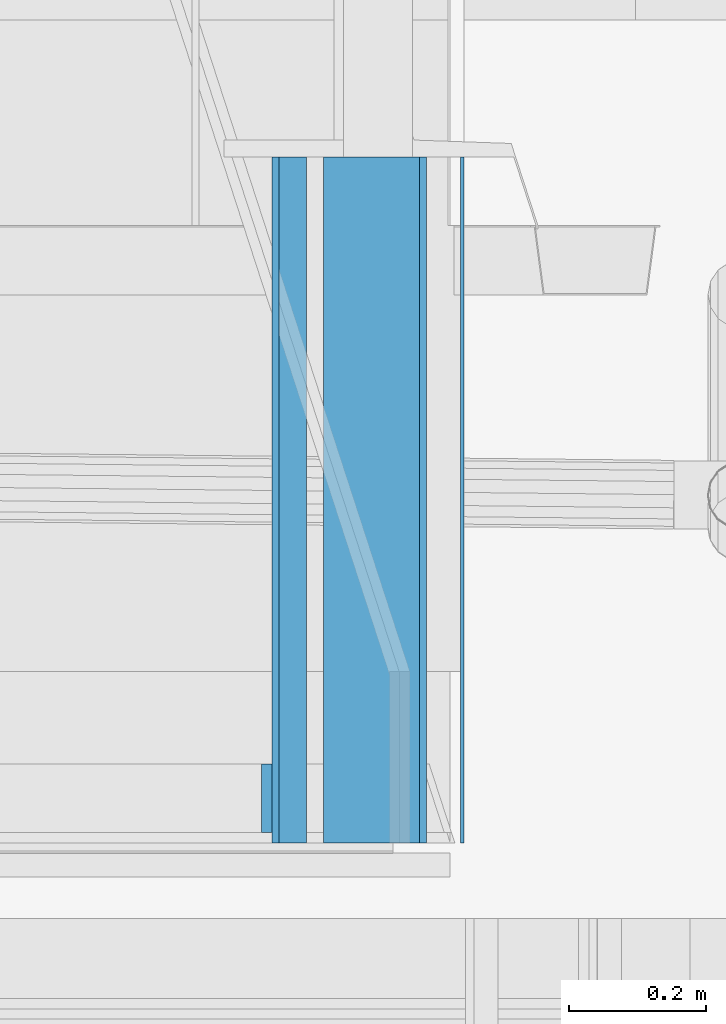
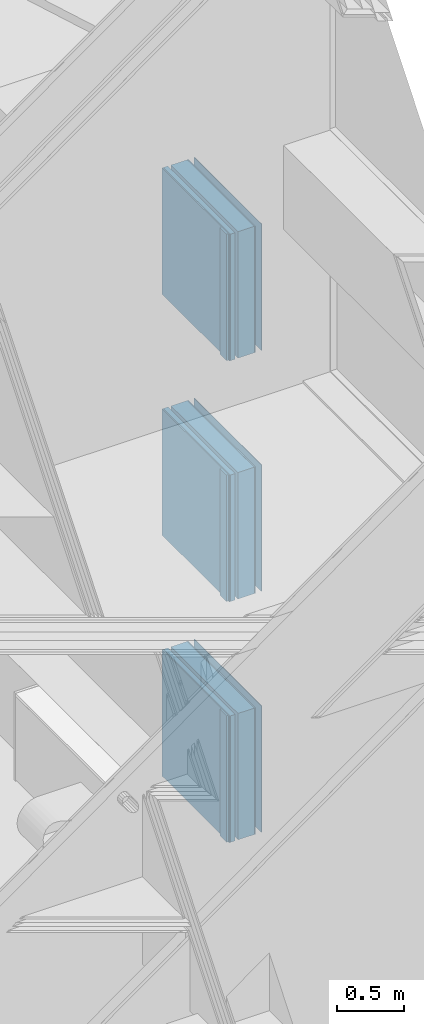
# One storey, part 166 of 583: 18 building element parts, 3 elements without a shape of their own.
"""IFC2X3 building model written with IfcOpenShell, lengths in metres."""

from ifc_helpers import new_model, entity, si_unit, converted_unit, derived_unit, money_unit, direction, frame, frame_2d, origin_with_axes, place, context, subcontext, project, spatial, rectangle, extrude, material, type_object, element, aggregate, save


model = new_model("IFC2X3")

# Units and contexts
model_context = context("Model", 3, precision=1e-05, world=origin_with_axes(), true_north=direction((0.0, 1.0)))
body_context = subcontext(model_context, "Body", "Model", "MODEL_VIEW", scale=1.0)
ifc_project = project(units=[si_unit("LENGTHUNIT", "METRE"), si_unit("AREAUNIT", "SQUARE_METRE"), si_unit("VOLUMEUNIT", "CUBIC_METRE"), si_unit("ABSORBEDDOSEUNIT", "GRAY"), si_unit("AMOUNTOFSUBSTANCEUNIT", "MOLE"), si_unit("DOSEEQUIVALENTUNIT", "SIEVERT"), si_unit("ELECTRICCAPACITANCEUNIT", "FARAD"), si_unit("ELECTRICCHARGEUNIT", "COULOMB"), si_unit("ELECTRICCONDUCTANCEUNIT", "SIEMENS"), si_unit("ELECTRICCURRENTUNIT", "AMPERE"), si_unit("ELECTRICRESISTANCEUNIT", "OHM"), si_unit("ELECTRICVOLTAGEUNIT", "VOLT"), si_unit("ENERGYUNIT", "JOULE"), si_unit("FORCEUNIT", "NEWTON"), si_unit("FREQUENCYUNIT", "HERTZ"), si_unit("ILLUMINANCEUNIT", "LUX"), si_unit("INDUCTANCEUNIT", "HENRY"), si_unit("LUMINOUSFLUXUNIT", "LUMEN"), si_unit("LUMINOUSINTENSITYUNIT", "CANDELA"), si_unit("MAGNETICFLUXDENSITYUNIT", "TESLA"), si_unit("MAGNETICFLUXUNIT", "WEBER"), si_unit("MASSUNIT", "GRAM"), converted_unit("PLANEANGLEUNIT", "degree", entity("IfcReal", 0.0174532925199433), si_unit("PLANEANGLEUNIT", "RADIAN"), dimensions=[0, 0, 0, 0, 0, 0, 0]), si_unit("POWERUNIT", "WATT"), si_unit("PRESSUREUNIT", "PASCAL"), si_unit("RADIOACTIVITYUNIT", "BECQUEREL"), si_unit("SOLIDANGLEUNIT", "STERADIAN"), si_unit("THERMODYNAMICTEMPERATUREUNIT", "KELVIN"), si_unit("TIMEUNIT", "SECOND"), derived_unit("ACCELERATIONUNIT", [(si_unit("LENGTHUNIT", "METRE"), 1), (si_unit("TIMEUNIT", "SECOND"), -2)]), derived_unit("ANGULARVELOCITYUNIT", [(converted_unit("PLANEANGLEUNIT", "degree", entity("IfcReal", 0.0174532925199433), si_unit("PLANEANGLEUNIT", "RADIAN"), dimensions=[0, 0, 0, 0, 0, 0, 0]), 1), (si_unit("TIMEUNIT", "SECOND"), -1)]), derived_unit("CURVATUREUNIT", [(converted_unit("PLANEANGLEUNIT", "degree", entity("IfcReal", 0.0174532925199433), si_unit("PLANEANGLEUNIT", "RADIAN"), dimensions=[0, 0, 0, 0, 0, 0, 0]), 1), (si_unit("LENGTHUNIT", "METRE"), -1)]), derived_unit("DYNAMICVISCOSITYUNIT", [(si_unit("PRESSUREUNIT", "PASCAL"), 1), (si_unit("TIMEUNIT", "SECOND"), 1)]), derived_unit("HEATFLUXDENSITYUNIT", [(si_unit("POWERUNIT", "WATT"), 1), (si_unit("LENGTHUNIT", "METRE"), -2)]), derived_unit("HEATINGVALUEUNIT", [(si_unit("ENERGYUNIT", "JOULE"), 1), (si_unit("MASSUNIT", "GRAM"), -1)]), derived_unit("INTEGERCOUNTRATEUNIT", [(si_unit("TIMEUNIT", "SECOND"), -1)]), derived_unit("IONCONCENTRATIONUNIT", [(si_unit("MASSUNIT", "GRAM"), 1), (si_unit("VOLUMEUNIT", "CUBIC_METRE"), -1)]), derived_unit("ISOTHERMALMOISTURECAPACITYUNIT", [(si_unit("VOLUMEUNIT", "CUBIC_METRE"), 1), (si_unit("MASSUNIT", "GRAM"), -1)]), derived_unit("KINEMATICVISCOSITYUNIT", [(si_unit("AREAUNIT", "SQUARE_METRE"), 1), (si_unit("TIMEUNIT", "SECOND"), -1)]), derived_unit("LINEARFORCEUNIT", [(si_unit("FORCEUNIT", "NEWTON"), 1), (si_unit("LENGTHUNIT", "METRE"), -1)]), derived_unit("LINEARMOMENTUNIT", [(si_unit("FORCEUNIT", "NEWTON"), 1), (si_unit("LENGTHUNIT", "METRE"), -1)]), derived_unit("LINEARSTIFFNESSUNIT", [(si_unit("FORCEUNIT", "NEWTON"), 1), (si_unit("LENGTHUNIT", "METRE"), -1)]), derived_unit("LINEARVELOCITYUNIT", [(si_unit("LENGTHUNIT", "METRE"), 1), (si_unit("TIMEUNIT", "SECOND"), -1)]), derived_unit("LUMINOUSINTENSITYDISTRIBUTIONUNIT", [(si_unit("LUMINOUSINTENSITYUNIT", "CANDELA"), 1), (si_unit("LUMINOUSFLUXUNIT", "LUMEN"), -1)]), derived_unit("MASSDENSITYUNIT", [(si_unit("MASSUNIT", "GRAM"), 1), (si_unit("VOLUMEUNIT", "CUBIC_METRE"), -1)]), derived_unit("MASSFLOWRATEUNIT", [(si_unit("MASSUNIT", "GRAM"), 1), (si_unit("TIMEUNIT", "SECOND"), -1)]), derived_unit("MASSPERLENGTHUNIT", [(si_unit("MASSUNIT", "GRAM"), 1), (si_unit("LENGTHUNIT", "METRE"), -1)]), derived_unit("MODULUSOFELASTICITYUNIT", [(si_unit("FORCEUNIT", "NEWTON"), 1), (si_unit("AREAUNIT", "SQUARE_METRE"), -1)]), derived_unit("MODULUSOFLINEARSUBGRADEREACTIONUNIT", [(si_unit("FORCEUNIT", "NEWTON"), 1), (si_unit("LENGTHUNIT", "METRE"), -2)]), derived_unit("MODULUSOFROTATIONALSUBGRADEREACTIONUNIT", [(si_unit("FORCEUNIT", "NEWTON"), 1), (si_unit("LENGTHUNIT", "METRE"), 1)]), derived_unit("MODULUSOFSUBGRADEREACTIONUNIT", [(si_unit("FORCEUNIT", "NEWTON"), 1), (si_unit("VOLUMEUNIT", "CUBIC_METRE"), -1)]), derived_unit("MOISTUREDIFFUSIVITYUNIT", [(si_unit("VOLUMEUNIT", "CUBIC_METRE"), 1), (si_unit("TIMEUNIT", "SECOND"), -1)]), derived_unit("MOLECULARWEIGHTUNIT", [(si_unit("MASSUNIT", "GRAM"), 1), (si_unit("AMOUNTOFSUBSTANCEUNIT", "MOLE"), -1)]), derived_unit("PLANARFORCEUNIT", [(si_unit("FORCEUNIT", "NEWTON"), 1), (si_unit("LENGTHUNIT", "METRE"), -2)]), derived_unit("ROTATIONALFREQUENCYUNIT", [(si_unit("TIMEUNIT", "SECOND"), -1)]), derived_unit("ROTATIONALMASSUNIT", [(si_unit("MASSUNIT", "GRAM"), 1), (si_unit("LENGTHUNIT", "METRE"), 2)]), derived_unit("ROTATIONALSTIFFNESSUNIT", [(si_unit("FORCEUNIT", "NEWTON"), 1), (si_unit("LENGTHUNIT", "METRE"), 1), (converted_unit("PLANEANGLEUNIT", "degree", entity("IfcReal", 0.0174532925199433), si_unit("PLANEANGLEUNIT", "RADIAN"), dimensions=[0, 0, 0, 0, 0, 0, 0]), -1)]), derived_unit("SECTIONAREAINTEGRALUNIT", [(si_unit("LENGTHUNIT", "METRE"), 5)]), derived_unit("SECTIONMODULUSUNIT", [(si_unit("LENGTHUNIT", "METRE"), 3)]), derived_unit("SHEARMODULUSUNIT", [(si_unit("FORCEUNIT", "NEWTON"), 1), (si_unit("AREAUNIT", "SQUARE_METRE"), -1)]), derived_unit("SOUNDPOWERUNIT", [(si_unit("ENERGYUNIT", "JOULE"), 1), (si_unit("TIMEUNIT", "SECOND"), -1)]), derived_unit("SPECIFICHEATCAPACITYUNIT", [(si_unit("FORCEUNIT", "NEWTON"), 1), (si_unit("MASSUNIT", "GRAM"), -1), (si_unit("THERMODYNAMICTEMPERATUREUNIT", "KELVIN"), -1)]), derived_unit("TEMPERATUREGRADIENTUNIT", [(si_unit("THERMODYNAMICTEMPERATUREUNIT", "KELVIN"), 1), (si_unit("LENGTHUNIT", "METRE"), -1)]), derived_unit("THERMALADMITTANCEUNIT", [(si_unit("POWERUNIT", "WATT"), 1), (si_unit("AREAUNIT", "SQUARE_METRE"), -1), (si_unit("THERMODYNAMICTEMPERATUREUNIT", "KELVIN"), -1)]), derived_unit("THERMALCONDUCTANCEUNIT", [(si_unit("POWERUNIT", "WATT"), 1), (si_unit("LENGTHUNIT", "METRE"), -1), (si_unit("THERMODYNAMICTEMPERATUREUNIT", "KELVIN"), -1)]), derived_unit("THERMALEXPANSIONCOEFFICIENTUNIT", [(si_unit("THERMODYNAMICTEMPERATUREUNIT", "KELVIN"), -1)]), derived_unit("THERMALRESISTANCEUNIT", [(si_unit("AREAUNIT", "SQUARE_METRE"), 1), (si_unit("POWERUNIT", "WATT"), -1)]), derived_unit("THERMALTRANSMITTANCEUNIT", [(si_unit("POWERUNIT", "WATT"), 1), (si_unit("AREAUNIT", "SQUARE_METRE"), -1), (si_unit("THERMODYNAMICTEMPERATUREUNIT", "KELVIN"), -1)]), derived_unit("TORQUEUNIT", [(si_unit("FORCEUNIT", "NEWTON"), 1), (si_unit("LENGTHUNIT", "METRE"), 1)]), derived_unit("VAPORPERMEABILITYUNIT", [(si_unit("MASSUNIT", "GRAM"), 1), (si_unit("TIMEUNIT", "SECOND"), -1)]), derived_unit("VOLUMETRICFLOWRATEUNIT", [(si_unit("VOLUMEUNIT", "CUBIC_METRE"), 1), (si_unit("TIMEUNIT", "SECOND"), -1)]), derived_unit("WARPINGCONSTANTUNIT", [(si_unit("LENGTHUNIT", "METRE"), 6)]), derived_unit("WARPINGMOMENTUNIT", [(si_unit("FORCEUNIT", "NEWTON"), 1), (si_unit("LENGTHUNIT", "METRE"), 2)]), money_unit("GBP")], contexts=[model_context])

# Site, building, storey
site_placement = place(None, origin_with_axes())
site = spatial("IfcSite", under=ifc_project, at=site_placement, Name="Site", CompositionType="ELEMENT")
building_placement = place(site_placement, origin_with_axes())
building = spatial("IfcBuilding", under=site, at=building_placement, Name="Building01", CompositionType="ELEMENT")
storey_placement = place(building_placement, frame((0.0, 0.0, 20.78), z_axis=(0.0, 0.0, 1.0), x_axis=(1.0, 0.0, 0.0)))
storey = spatial("IfcBuildingStorey", under=building, at=storey_placement, Name="RL", CompositionType="ELEMENT", Elevation=20.78)

# Wall, building element parts
wall_type = type_object("IfcWallType", Name="SHE_A-Walls_Type06e_ExternalWallPenthouse_280mm", PredefinedType="NOTDEFINED")
wall_1_placement = place(storey_placement, frame((14.335061, 14.98, -13.329976), z_axis=(0.0, 1.0, 0.0), x_axis=(0.0, 0.0, 1.0)))
wall_1 = element("IfcWall", 1, at=wall_1_placement, inside=storey, type_object=wall_type, Name="6E", ObjectType="SHE_A-Walls_Type06e_ExternalWallPenthouse_280mm")
ifc_material_1 = material(Name="A_BSUK_Insulation")
placement_1 = place(wall_1_placement, origin_with_axes())
building_element_part_1 = element("IfcBuildingElementPart", 2, at=placement_1, material=ifc_material_1, Name="1", context=body_context, shape_type="SweptSolid", body=[
    extrude(rectangle(XDim=1.149951, YDim=0.14, at=frame_2d((0.574976, -0.07), x_axis=(-1.0, 0.0))), origin_with_axes(), (0.0, 0.0, 1.0), 1.0),
])
building_element_part_2 = element("IfcBuildingElementPart", 3, at=placement_1, material=ifc_material_1, Name="2", context=body_context, shape_type="SweptSolid", body=[
    extrude(rectangle(XDim=1.149951, YDim=0.04, at=frame_2d((0.574976, -0.185), x_axis=(-1.0, 0.0))), origin_with_axes(), (0.0, 0.0, 1.0), 1.0),
])
ifc_material_2 = material(Name="A_BSUK_Walls_Timber")
building_element_part_3 = element("IfcBuildingElementPart", 4, at=placement_1, material=ifc_material_2, Name="3", context=body_context, shape_type="SweptSolid", body=[
    extrude(rectangle(XDim=1.149951, YDim=0.015, at=frame_2d((0.574976, -0.2225), x_axis=(-1.0, 0.0))), frame((0.0, 0.0, 0.015), z_axis=(0.0, 0.0, 1.0), x_axis=(1.0, 0.0, 0.0)), (0.0, 0.0, 1.0), 0.1),
])
ifc_material_3 = material(Name="A_BSUK_WallInternal_Finishes_Plasterboard")
building_element_part_4 = element("IfcBuildingElementPart", 5, at=placement_1, material=ifc_material_3, Name="4", context=body_context, shape_type="SweptSolid", body=[
    extrude(rectangle(XDim=1.149951, YDim=0.01, at=frame_2d((0.574976, -0.21), x_axis=(-1.0, 0.0))), origin_with_axes(), (0.0, 0.0, 1.0), 1.0),
])
building_element_part_5 = element("IfcBuildingElementPart", 6, at=placement_1, material=ifc_material_2, Name="5", context=body_context, shape_type="SweptSolid", body=[
    extrude(rectangle(XDim=1.149951, YDim=0.01, at=frame_2d((0.574976, 0.005), x_axis=(-1.0, 0.0))), origin_with_axes(), (0.0, 0.0, 1.0), 1.0),
])
ifc_material_4 = material(Name="A_BSUK_WallInternal_Finishes_Metal")
building_element_part_6 = element("IfcBuildingElementPart", 7, at=placement_1, material=ifc_material_4, Name="6", context=body_context, shape_type="SweptSolid", body=[
    extrude(rectangle(XDim=1.149951, YDim=0.005, at=frame_2d((0.574976, 0.0625), x_axis=(-1.0, 0.0))), origin_with_axes(), (0.0, 0.0, 1.0), 1.0),
])
aggregate(wall_1, [building_element_part_1, building_element_part_2, building_element_part_3, building_element_part_4, building_element_part_5, building_element_part_6])

wall_2_placement = place(storey_placement, frame((14.335061, 14.98, -15.519976), z_axis=(0.0, 1.0, 0.0), x_axis=(0.0, 0.0, 1.0)))
wall_2 = element("IfcWall", 8, at=wall_2_placement, inside=storey, type_object=wall_type, Name="6E", ObjectType="SHE_A-Walls_Type06e_ExternalWallPenthouse_280mm")
placement_2 = place(wall_2_placement, origin_with_axes())
building_element_part_7 = element("IfcBuildingElementPart", 9, at=placement_2, material=ifc_material_1, Name="1", context=body_context, shape_type="SweptSolid", body=[
    extrude(rectangle(XDim=1.149951, YDim=0.14, at=frame_2d((0.574976, -0.07), x_axis=(-1.0, 0.0))), origin_with_axes(), (0.0, 0.0, 1.0), 1.0),
])
building_element_part_8 = element("IfcBuildingElementPart", 10, at=placement_2, material=ifc_material_1, Name="2", context=body_context, shape_type="SweptSolid", body=[
    extrude(rectangle(XDim=1.149951, YDim=0.04, at=frame_2d((0.574976, -0.185), x_axis=(-1.0, 0.0))), origin_with_axes(), (0.0, 0.0, 1.0), 1.0),
])
building_element_part_9 = element("IfcBuildingElementPart", 11, at=placement_2, material=ifc_material_2, Name="3", context=body_context, shape_type="SweptSolid", body=[
    extrude(rectangle(XDim=1.149951, YDim=0.015, at=frame_2d((0.574976, -0.2225), x_axis=(-1.0, 0.0))), frame((0.0, 0.0, 0.015), z_axis=(0.0, 0.0, 1.0), x_axis=(1.0, 0.0, 0.0)), (0.0, 0.0, 1.0), 0.1),
])
building_element_part_10 = element("IfcBuildingElementPart", 12, at=placement_2, material=ifc_material_3, Name="4", context=body_context, shape_type="SweptSolid", body=[
    extrude(rectangle(XDim=1.149951, YDim=0.01, at=frame_2d((0.574976, -0.21), x_axis=(-1.0, 0.0))), origin_with_axes(), (0.0, 0.0, 1.0), 1.0),
])
building_element_part_11 = element("IfcBuildingElementPart", 13, at=placement_2, material=ifc_material_2, Name="5", context=body_context, shape_type="SweptSolid", body=[
    extrude(rectangle(XDim=1.149951, YDim=0.01, at=frame_2d((0.574976, 0.005), x_axis=(-1.0, 0.0))), origin_with_axes(), (0.0, 0.0, 1.0), 1.0),
])
building_element_part_12 = element("IfcBuildingElementPart", 14, at=placement_2, material=ifc_material_4, Name="6", context=body_context, shape_type="SweptSolid", body=[
    extrude(rectangle(XDim=1.149951, YDim=0.005, at=frame_2d((0.574976, 0.0625), x_axis=(-1.0, 0.0))), origin_with_axes(), (0.0, 0.0, 1.0), 1.0),
])
aggregate(wall_2, [building_element_part_7, building_element_part_8, building_element_part_9, building_element_part_10, building_element_part_11, building_element_part_12])

wall_3_placement = place(storey_placement, frame((14.335061, 14.98, -17.709976), z_axis=(0.0, 1.0, 0.0), x_axis=(0.0, 0.0, 1.0)))
wall_3 = element("IfcWall", 15, at=wall_3_placement, inside=storey, type_object=wall_type, Name="6E", ObjectType="SHE_A-Walls_Type06e_ExternalWallPenthouse_280mm")
placement_3 = place(wall_3_placement, origin_with_axes())
building_element_part_13 = element("IfcBuildingElementPart", 16, at=placement_3, material=ifc_material_1, Name="1", context=body_context, shape_type="SweptSolid", body=[
    extrude(rectangle(XDim=1.149951, YDim=0.14, at=frame_2d((0.574976, -0.07), x_axis=(-1.0, 0.0))), origin_with_axes(), (0.0, 0.0, 1.0), 1.0),
])
building_element_part_14 = element("IfcBuildingElementPart", 17, at=placement_3, material=ifc_material_1, Name="2", context=body_context, shape_type="SweptSolid", body=[
    extrude(rectangle(XDim=1.149951, YDim=0.04, at=frame_2d((0.574976, -0.185), x_axis=(-1.0, 0.0))), origin_with_axes(), (0.0, 0.0, 1.0), 1.0),
])
building_element_part_15 = element("IfcBuildingElementPart", 18, at=placement_3, material=ifc_material_2, Name="3", context=body_context, shape_type="SweptSolid", body=[
    extrude(rectangle(XDim=1.149951, YDim=0.015, at=frame_2d((0.574976, -0.2225), x_axis=(-1.0, 0.0))), frame((0.0, 0.0, 0.015), z_axis=(0.0, 0.0, 1.0), x_axis=(1.0, 0.0, 0.0)), (0.0, 0.0, 1.0), 0.1),
])
building_element_part_16 = element("IfcBuildingElementPart", 19, at=placement_3, material=ifc_material_3, Name="4", context=body_context, shape_type="SweptSolid", body=[
    extrude(rectangle(XDim=1.149951, YDim=0.01, at=frame_2d((0.574976, -0.21), x_axis=(-1.0, 0.0))), origin_with_axes(), (0.0, 0.0, 1.0), 1.0),
])
building_element_part_17 = element("IfcBuildingElementPart", 20, at=placement_3, material=ifc_material_2, Name="5", context=body_context, shape_type="SweptSolid", body=[
    extrude(rectangle(XDim=1.149951, YDim=0.01, at=frame_2d((0.574976, 0.005), x_axis=(-1.0, 0.0))), origin_with_axes(), (0.0, 0.0, 1.0), 1.0),
])
building_element_part_18 = element("IfcBuildingElementPart", 21, at=placement_3, material=ifc_material_4, Name="6", context=body_context, shape_type="SweptSolid", body=[
    extrude(rectangle(XDim=1.149951, YDim=0.005, at=frame_2d((0.574976, 0.0625), x_axis=(-1.0, 0.0))), origin_with_axes(), (0.0, 0.0, 1.0), 1.0),
])
aggregate(wall_3, [building_element_part_13, building_element_part_14, building_element_part_15, building_element_part_16, building_element_part_17, building_element_part_18])

save(model, "model.ifc")
